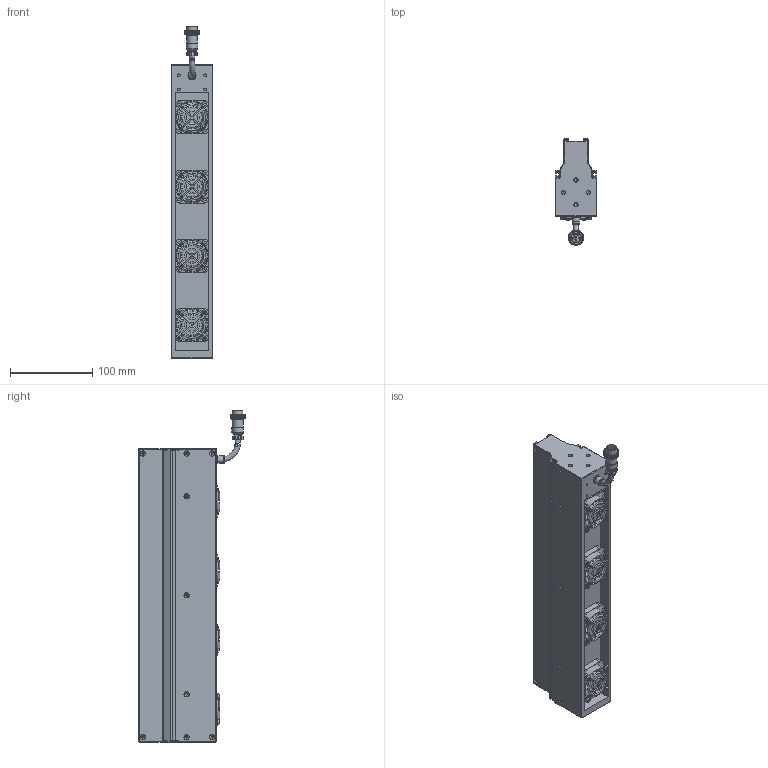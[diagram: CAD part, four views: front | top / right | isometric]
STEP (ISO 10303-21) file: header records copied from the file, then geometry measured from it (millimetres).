
FILE_DESCRIPTION (( 'STEP AP203' ), '1' );
FILE_NAME ('OPT-LSS356-W-V3.1尨砩芞.STEP', '2025-01-21T01:25:10', ( 'USER' ), ( '' ), 'SwSTEP 2.0', 'SolidWorks 2016', '' );
FILE_SCHEMA (( 'CONFIG_CONTROL_DESIGN' ));
Products named in the file (2): OPT-LSS356-W-V3.1尨砩芞
Bounding box: 50 x 129.15 x 402.83 mm (x, y, z)
Volume: 1204568.2 mm3; surface area: 200982.1 mm2
Topology: 21 solids, 29 shells, 4256 faces, 9503 edges, 5412 vertices
Faces by surface type: bspline 2179, cylinder 916, plane 872, torus 236, cone 53
Full cylindrical faces by diameter (mm): 0.95 x6, 1.1 x2, 1.4 x2, 1.6 x16, 2 x8, 2.5 x18, 3 x4, 3.2 x20, 3.4 x18, 3.5 x4, 5 x8, 6.2 x16, 6.4 x3, 7.5 x1, 8.6 x1, 9.3 x1, 9.8 x1, 10 x1, 13.2 x1, 14 x1, 16.1 x1, 24.8 x4, 38 x4
Entity records: 153405 total; most frequent: CARTESIAN_POINT 80011, ORIENTED_EDGE 18238, EDGE_CURVE 9119, DIRECTION 8446, B_SPLINE_CURVE_WITH_KNOTS 5926, VERTEX_POINT 5326, EDGE_LOOP 4691, FACE_OUTER_BOUND 4485
